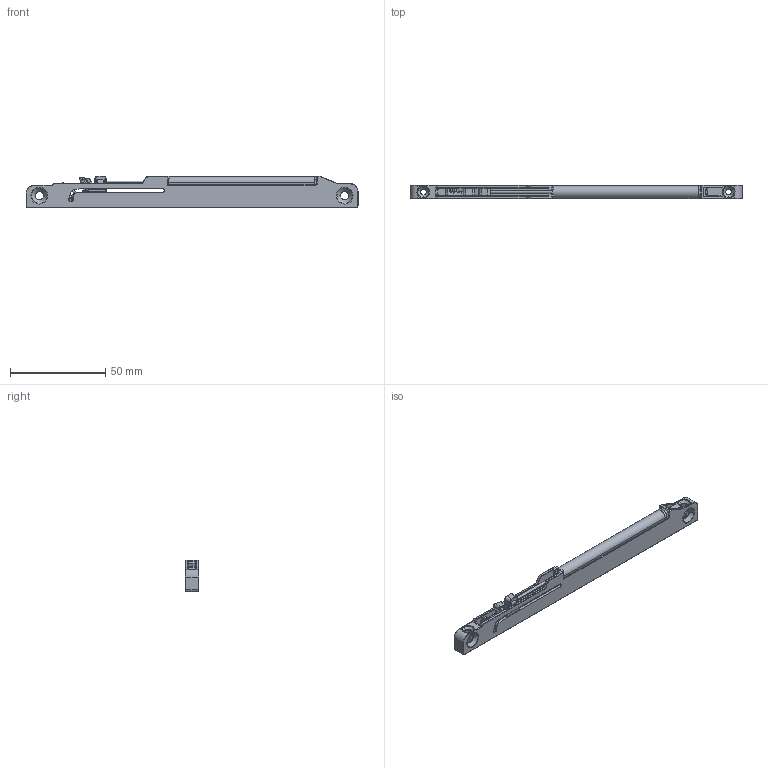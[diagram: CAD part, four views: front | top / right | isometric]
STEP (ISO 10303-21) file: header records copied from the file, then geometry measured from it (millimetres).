
FILE_DESCRIPTION((''),'2;1');
FILE_NAME('E030-06-001_ASM','2022-10-10T',('FKoch'),(''),'CREO PARAMETRIC BY PTC INC, 2017020','CREO PARAMETRIC BY PTC INC, 2017020','');
FILE_SCHEMA(('AUTOMOTIVE_DESIGN { 1 0 10303 214 1 1 1 1 }'));
Products named in the file (14): 5-GEH80597; 5-GEH00529; 5-DEC00014; 6-FLU00011; 5-KST01611; 5-BAU00069_ASM; 5-DEC00013; 5-KUN00812; 5-KUN81295; F030-06-009_ASM; 5-KUN81323; 5-KUN81324; 5-FED01024_AF0; E030-06-001_ASM
Assembly tree (13 placements, depth 4):
  E030-06-001_ASM
    5-GEH80597
    F030-06-009_ASM
      5-GEH00529
      5-DEC00014
      6-FLU00011
      5-BAU00069_ASM
        5-KST01611
      5-DEC00013
      5-KUN00812
      5-KUN81295
    5-KUN81323
    5-KUN81324
    5-FED01024_AF0
Bounding box: 174 x 7 x 16.5 mm (x, y, z)
Volume: 9464.4 mm3; surface area: 16462.8 mm2
Topology: 10 solids, 10 shells, 1326 faces, 3113 edges, 1806 vertices
Faces by surface type: cylinder 514, torus 299, plane 227, bspline 214, cone 50, sphere 22
Entity records: 88336 total; most frequent: CARTESIAN_POINT 39652, DIRECTION 6381, ORIENTED_EDGE 6222, PRESENTATION_STYLE_ASSIGNMENT 3602, STYLED_ITEM 3602, CURVE_STYLE 3111, EDGE_CURVE 3111, AXIS2_PLACEMENT_3D 2661
